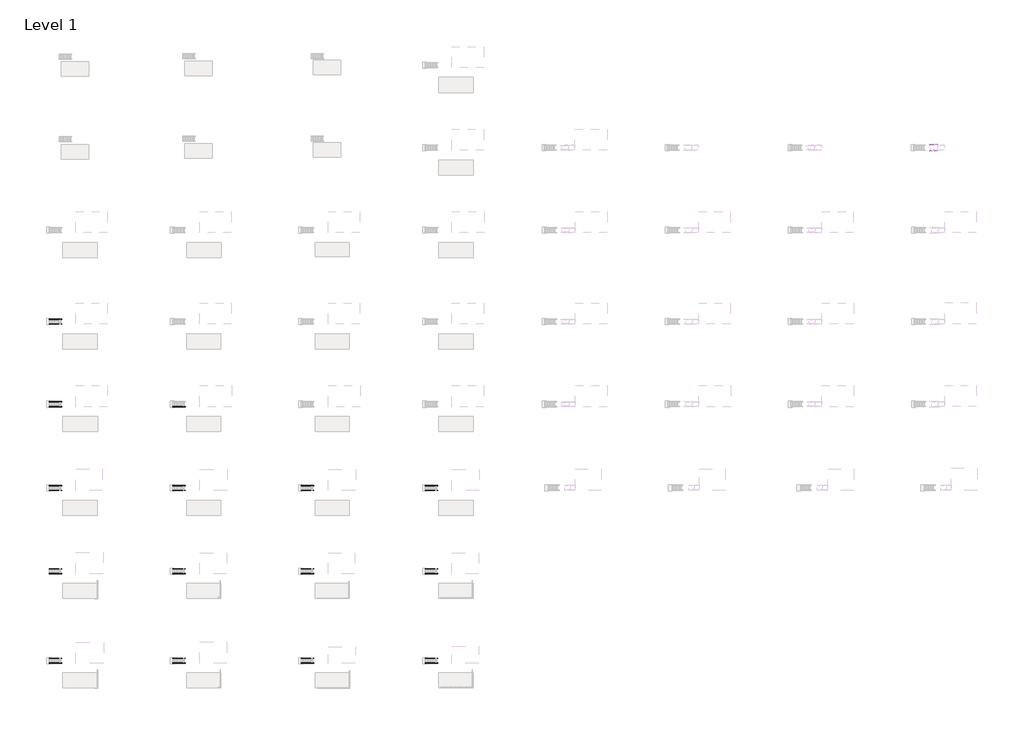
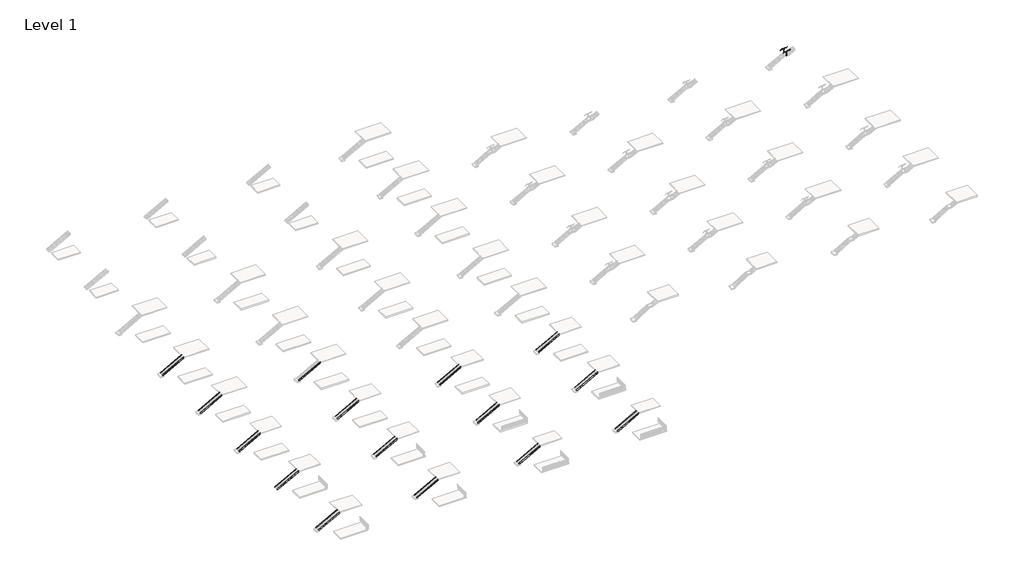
# One storey, part 34 of 36: 29 members, 2 railings.
"""IFC4 building model written with IfcOpenShell, lengths in millimetres."""

from ifc_helpers import new_model, si_unit, point, frame, frame_2d, origin, place, context, project, spatial, polyline, circle_curve, ellipse_curve, trimmed, segment, composite_curve, outline, extrude, element, save
from ifc_brep_helpers import plane_surface, cylinder_surface, revolved_surface, advanced_brep

model = new_model("IFC4")

# Units and contexts
model_context = context("Model", 3, world=origin())
ifc_project = project(units=[si_unit("LENGTHUNIT", "METRE", prefix="MILLI")], contexts=[model_context])

# Site, building, storey
site = spatial("IfcSite", under=ifc_project)
building = spatial("IfcBuilding", under=site)
storey = spatial("IfcBuildingStorey", under=building, Name="Level 1", Elevation=0.0)

# Members
placement = place(None, origin())
element("IfcMember", 1, ObjectType="Stringer - 2\" Width", at=placement, inside=storey, context=model_context, shape_type="SweptSolid", body=[
    extrude(outline(polyline([(177.1989729, -14498.1164794), (0.0, -14498.1164794), (0.0, -14212.9808448), (2753.9260175, -9164.1164794), (3086.6535184, -9164.1164794), (177.1989729, -14498.1164794)])), frame((0.0, -69110.0426165, 0.0), z_axis=(0.0, 1.0, 0.0), x_axis=(0.0, 0.0, 1.0)), (0.0, 0.0, 1.0), 50.8),
])
element("IfcMember", 2, ObjectType="Stringer - 2\" Width", at=placement, inside=storey, context=model_context, shape_type="SweptSolid", body=[
    extrude(outline(polyline([(177.1989729, -14498.1164794), (0.0, -14498.1164794), (0.0, -14212.9808448), (2753.9260175, -9164.1164794), (3086.6535184, -9164.1164794), (177.1989729, -14498.1164794)])), frame((0.0, -70075.2426165, 0.0), z_axis=(0.0, 1.0, 0.0), x_axis=(0.0, 0.0, 1.0)), (0.0, 0.0, 1.0), 50.8),
])
element("IfcMember", 3, ObjectType="Stringer - 2\" Width", at=placement, inside=storey, context=model_context, shape_type="SweptSolid", body=[
    extrude(outline(polyline([(177.1989729, -14498.1164794), (0.0, -14498.1164794), (0.0, -14212.9808448), (2753.9260175, -9164.1164794), (3086.6535184, -9164.1164794), (177.1989729, -14498.1164794)])), frame((0.0, -51279.2426165, 0.0), z_axis=(0.0, 1.0, 0.0), x_axis=(0.0, 0.0, 1.0)), (0.0, 0.0, 1.0), 50.8),
])
element("IfcMember", 4, ObjectType="Stringer - 2\" Width", at=placement, inside=storey, context=model_context, shape_type="SweptSolid", body=[
    extrude(outline(polyline([(177.1989729, -14498.1164794), (0.0, -14498.1164794), (0.0, -14212.9808448), (2753.9260175, -9164.1164794), (3086.6535184, -9164.1164794), (177.1989729, -14498.1164794)])), frame((0.0, -52244.4426165, 0.0), z_axis=(0.0, 1.0, 0.0), x_axis=(0.0, 0.0, 1.0)), (0.0, 0.0, 1.0), 50.8),
])
element("IfcMember", 5, ObjectType="Stringer - 2\" Width", at=placement, inside=storey, context=model_context, shape_type="SweptSolid", body=[
    extrude(outline(polyline([(177.1989729, -14498.1164794), (0.0, -14498.1164794), (0.0, -14212.9808448), (2753.9260175, -9164.1164794), (3086.6535184, -9164.1164794), (177.1989729, -14498.1164794)])), frame((0.0, -34679.081782, 0.0), z_axis=(0.0, 1.0, 0.0), x_axis=(0.0, 0.0, 1.0)), (0.0, 0.0, 1.0), 50.8),
])
element("IfcMember", 6, ObjectType="Stringer - 2\" Width", at=placement, inside=storey, context=model_context, shape_type="SweptSolid", body=[
    extrude(outline(polyline([(177.1989729, -14498.1164794), (0.0, -14498.1164794), (0.0, -14212.9808448), (2753.9260175, -9164.1164794), (3086.6535184, -9164.1164794), (177.1989729, -14498.1164794)])), frame((0.0, -35644.281782, 0.0), z_axis=(0.0, 1.0, 0.0), x_axis=(0.0, 0.0, 1.0)), (0.0, 0.0, 1.0), 50.8),
])
element("IfcMember", 7, ObjectType="Stringer - 2\" Width", at=placement, inside=storey, context=model_context, shape_type="SweptSolid", body=[
    extrude(outline(polyline([(177.1989729, -14498.1164794), (0.0, -14498.1164794), (0.0, -14212.9808448), (2753.9260175, -9164.1164794), (3086.6535184, -9164.1164794), (177.1989729, -14498.1164794)])), frame((0.0, -17954.2990002, 0.0), z_axis=(0.0, 1.0, 0.0), x_axis=(0.0, 0.0, 1.0)), (0.0, 0.0, 1.0), 50.8),
])
element("IfcMember", 8, ObjectType="Stringer - 2\" Width", at=placement, inside=storey, context=model_context, shape_type="SweptSolid", body=[
    extrude(outline(polyline([(177.1989729, -14498.1164794), (0.0, -14498.1164794), (0.0, -14212.9808448), (2753.9260175, -9164.1164794), (3086.6535184, -9164.1164794), (177.1989729, -14498.1164794)])), frame((0.0, -18919.4990002, 0.0), z_axis=(0.0, 1.0, 0.0), x_axis=(0.0, 0.0, 1.0)), (0.0, 0.0, 1.0), 50.8),
])
element("IfcMember", 9, ObjectType="Stringer - 2\" Width", at=placement, inside=storey, context=model_context, shape_type="SweptSolid", body=[
    extrude(outline(polyline([(177.1989729, -14498.1164794), (0.0, -14498.1164794), (0.0, -14212.9808448), (2753.9260175, -9164.1164794), (3086.6535184, -9164.1164794), (177.1989729, -14498.1164794)])), frame((0.0, -1486.3855758, 0.0), z_axis=(0.0, 1.0, 0.0), x_axis=(0.0, 0.0, 1.0)), (0.0, 0.0, 1.0), 50.8),
])
element("IfcMember", 10, ObjectType="Stringer - 2\" Width", at=placement, inside=storey, context=model_context, shape_type="SweptSolid", body=[
    extrude(outline(polyline([(177.1989729, -14498.1164794), (0.0, -14498.1164794), (0.0, -14212.9808448), (2753.9260175, -9164.1164794), (3086.6535184, -9164.1164794), (177.1989729, -14498.1164794)])), frame((0.0, -2451.5855758, 0.0), z_axis=(0.0, 1.0, 0.0), x_axis=(0.0, 0.0, 1.0)), (0.0, 0.0, 1.0), 50.8),
])
element("IfcMember", 11, ObjectType="Stringer - 2\" Width", at=placement, inside=storey, context=model_context, shape_type="SweptSolid", body=[
    extrude(outline(polyline([(177.1989729, 10178.8572927), (0.0, 10178.8572927), (0.0, 10463.9929272), (2753.9260175, 15512.8572927), (3086.6535184, 15512.8572927), (177.1989729, 10178.8572927)])), frame((0.0, -69110.0426165, 0.0), z_axis=(0.0, 1.0, 0.0), x_axis=(0.0, 0.0, 1.0)), (0.0, 0.0, 1.0), 50.8),
])
element("IfcMember", 12, ObjectType="Stringer - 2\" Width", at=placement, inside=storey, context=model_context, shape_type="SweptSolid", body=[
    extrude(outline(polyline([(177.1989729, 10178.8572927), (0.0, 10178.8572927), (0.0, 10463.9929272), (2753.9260175, 15512.8572927), (3086.6535184, 15512.8572927), (177.1989729, 10178.8572927)])), frame((0.0, -70075.2426165, 0.0), z_axis=(0.0, 1.0, 0.0), x_axis=(0.0, 0.0, 1.0)), (0.0, 0.0, 1.0), 50.8),
])
element("IfcMember", 13, ObjectType="Stringer - 2\" Width", at=placement, inside=storey, context=model_context, shape_type="SweptSolid", body=[
    extrude(outline(polyline([(177.1989729, 10178.8572927), (0.0, 10178.8572927), (0.0, 10463.9929272), (2753.9260175, 15512.8572927), (3086.6535184, 15512.8572927), (177.1989729, 10178.8572927)])), frame((0.0, -51279.2426165, 0.0), z_axis=(0.0, 1.0, 0.0), x_axis=(0.0, 0.0, 1.0)), (0.0, 0.0, 1.0), 50.8),
])
element("IfcMember", 14, ObjectType="Stringer - 2\" Width", at=placement, inside=storey, context=model_context, shape_type="SweptSolid", body=[
    extrude(outline(polyline([(177.1989729, 10178.8572927), (0.0, 10178.8572927), (0.0, 10463.9929272), (2753.9260175, 15512.8572927), (3086.6535184, 15512.8572927), (177.1989729, 10178.8572927)])), frame((0.0, -52244.4426165, 0.0), z_axis=(0.0, 1.0, 0.0), x_axis=(0.0, 0.0, 1.0)), (0.0, 0.0, 1.0), 50.8),
])
element("IfcMember", 15, ObjectType="Stringer - 2\" Width", at=placement, inside=storey, context=model_context, shape_type="SweptSolid", body=[
    extrude(outline(polyline([(177.1989729, 10178.8572927), (0.0, 10178.8572927), (0.0, 10463.9929272), (2753.9260175, 15512.8572927), (3086.6535184, 15512.8572927), (177.1989729, 10178.8572927)])), frame((0.0, -34679.081782, 0.0), z_axis=(0.0, 1.0, 0.0), x_axis=(0.0, 0.0, 1.0)), (0.0, 0.0, 1.0), 50.8),
])
element("IfcMember", 16, ObjectType="Stringer - 2\" Width", at=placement, inside=storey, context=model_context, shape_type="SweptSolid", body=[
    extrude(outline(polyline([(177.1989729, 10178.8572927), (0.0, 10178.8572927), (0.0, 10463.9929272), (2753.9260175, 15512.8572927), (3086.6535184, 15512.8572927), (177.1989729, 10178.8572927)])), frame((0.0, -35644.281782, 0.0), z_axis=(0.0, 1.0, 0.0), x_axis=(0.0, 0.0, 1.0)), (0.0, 0.0, 1.0), 50.8),
])
element("IfcMember", 17, ObjectType="Stringer - 2\" Width", at=placement, inside=storey, context=model_context, shape_type="SweptSolid", body=[
    extrude(outline(polyline([(177.1989729, 10178.8572927), (0.0, 10178.8572927), (0.0, 10463.9929272), (2753.9260175, 15512.8572927), (3086.6535184, 15512.8572927), (177.1989729, 10178.8572927)])), frame((0.0, -18919.4990002, 0.0), z_axis=(0.0, 1.0, 0.0), x_axis=(0.0, 0.0, 1.0)), (0.0, 0.0, 1.0), 50.8),
])
element("IfcMember", 18, ObjectType="Stringer - 2\" Width", at=placement, inside=storey, context=model_context, shape_type="SweptSolid", body=[
    extrude(outline(polyline([(177.1989729, 35782.0572927), (0.0, 35782.0572927), (0.0, 36067.1929272), (2753.9260175, 41116.0572927), (3086.6535184, 41116.0572927), (177.1989729, 35782.0572927)])), frame((0.0, -69110.0426165, 0.0), z_axis=(0.0, 1.0, 0.0), x_axis=(0.0, 0.0, 1.0)), (0.0, 0.0, 1.0), 50.8),
])
element("IfcMember", 19, ObjectType="Stringer - 2\" Width", at=placement, inside=storey, context=model_context, shape_type="SweptSolid", body=[
    extrude(outline(polyline([(177.1989729, 35782.0572927), (0.0, 35782.0572927), (0.0, 36067.1929272), (2753.9260175, 41116.0572927), (3086.6535184, 41116.0572927), (177.1989729, 35782.0572927)])), frame((0.0, -70075.2426165, 0.0), z_axis=(0.0, 1.0, 0.0), x_axis=(0.0, 0.0, 1.0)), (0.0, 0.0, 1.0), 50.8),
])
element("IfcMember", 20, ObjectType="Stringer - 2\" Width", at=placement, inside=storey, context=model_context, shape_type="SweptSolid", body=[
    extrude(outline(polyline([(177.1989729, 35782.0572927), (0.0, 35782.0572927), (0.0, 36067.1929272), (2753.9260175, 41116.0572927), (3086.6535184, 41116.0572927), (177.1989729, 35782.0572927)])), frame((0.0, -51279.2426165, 0.0), z_axis=(0.0, 1.0, 0.0), x_axis=(0.0, 0.0, 1.0)), (0.0, 0.0, 1.0), 50.8),
])
element("IfcMember", 21, ObjectType="Stringer - 2\" Width", at=placement, inside=storey, context=model_context, shape_type="SweptSolid", body=[
    extrude(outline(polyline([(177.1989729, 35782.0572927), (0.0, 35782.0572927), (0.0, 36067.1929272), (2753.9260175, 41116.0572927), (3086.6535184, 41116.0572927), (177.1989729, 35782.0572927)])), frame((0.0, -52244.4426165, 0.0), z_axis=(0.0, 1.0, 0.0), x_axis=(0.0, 0.0, 1.0)), (0.0, 0.0, 1.0), 50.8),
])
element("IfcMember", 22, ObjectType="Stringer - 2\" Width", at=placement, inside=storey, context=model_context, shape_type="SweptSolid", body=[
    extrude(outline(polyline([(177.1989729, 35782.0572927), (0.0, 35782.0572927), (0.0, 36067.1929272), (2753.9260175, 41116.0572927), (3086.6535184, 41116.0572927), (177.1989729, 35782.0572927)])), frame((0.0, -34679.081782, 0.0), z_axis=(0.0, 1.0, 0.0), x_axis=(0.0, 0.0, 1.0)), (0.0, 0.0, 1.0), 50.8),
])
element("IfcMember", 23, ObjectType="Stringer - 2\" Width", at=placement, inside=storey, context=model_context, shape_type="SweptSolid", body=[
    extrude(outline(polyline([(177.1989729, 35782.0572927), (0.0, 35782.0572927), (0.0, 36067.1929272), (2753.9260175, 41116.0572927), (3086.6535184, 41116.0572927), (177.1989729, 35782.0572927)])), frame((0.0, -35644.281782, 0.0), z_axis=(0.0, 1.0, 0.0), x_axis=(0.0, 0.0, 1.0)), (0.0, 0.0, 1.0), 50.8),
])
element("IfcMember", 24, ObjectType="Stringer - 2\" Width", at=placement, inside=storey, context=model_context, shape_type="SweptSolid", body=[
    extrude(outline(polyline([(177.1989729, 60459.0310647), (0.0, 60459.0310647), (0.0, 60744.1666993), (2753.9260175, 65793.0310647), (3086.6535184, 65793.0310647), (177.1989729, 60459.0310647)])), frame((0.0, -69110.0426165, 0.0), z_axis=(0.0, 1.0, 0.0), x_axis=(0.0, 0.0, 1.0)), (0.0, 0.0, 1.0), 50.8),
])
element("IfcMember", 25, ObjectType="Stringer - 2\" Width", at=placement, inside=storey, context=model_context, shape_type="SweptSolid", body=[
    extrude(outline(polyline([(177.1989729, 60459.0310647), (0.0, 60459.0310647), (0.0, 60744.1666993), (2753.9260175, 65793.0310647), (3086.6535184, 65793.0310647), (177.1989729, 60459.0310647)])), frame((0.0, -70075.2426165, 0.0), z_axis=(0.0, 1.0, 0.0), x_axis=(0.0, 0.0, 1.0)), (0.0, 0.0, 1.0), 50.8),
])
element("IfcMember", 26, ObjectType="Stringer - 2\" Width", at=placement, inside=storey, context=model_context, shape_type="SweptSolid", body=[
    extrude(outline(polyline([(177.1989729, 60459.0310647), (0.0, 60459.0310647), (0.0, 60744.1666993), (2753.9260175, 65793.0310647), (3086.6535184, 65793.0310647), (177.1989729, 60459.0310647)])), frame((0.0, -51279.2426165, 0.0), z_axis=(0.0, 1.0, 0.0), x_axis=(0.0, 0.0, 1.0)), (0.0, 0.0, 1.0), 50.8),
])
element("IfcMember", 27, ObjectType="Stringer - 2\" Width", at=placement, inside=storey, context=model_context, shape_type="SweptSolid", body=[
    extrude(outline(polyline([(177.1989729, 60459.0310647), (0.0, 60459.0310647), (0.0, 60744.1666993), (2753.9260175, 65793.0310647), (3086.6535184, 65793.0310647), (177.1989729, 60459.0310647)])), frame((0.0, -52244.4426165, 0.0), z_axis=(0.0, 1.0, 0.0), x_axis=(0.0, 0.0, 1.0)), (0.0, 0.0, 1.0), 50.8),
])
element("IfcMember", 28, ObjectType="Stringer - 2\" Width", at=placement, inside=storey, context=model_context, shape_type="SweptSolid", body=[
    extrude(outline(polyline([(177.1989729, 60459.0310647), (0.0, 60459.0310647), (0.0, 60744.1666993), (2753.9260175, 65793.0310647), (3086.6535184, 65793.0310647), (177.1989729, 60459.0310647)])), frame((0.0, -34679.081782, 0.0), z_axis=(0.0, 1.0, 0.0), x_axis=(0.0, 0.0, 1.0)), (0.0, 0.0, 1.0), 50.8),
])
element("IfcMember", 29, ObjectType="Stringer - 2\" Width", at=placement, inside=storey, context=model_context, shape_type="SweptSolid", body=[
    extrude(outline(polyline([(177.1989729, 60459.0310647), (0.0, 60459.0310647), (0.0, 60744.1666993), (2753.9260175, 65793.0310647), (3086.6535184, 65793.0310647), (177.1989729, 60459.0310647)])), frame((0.0, -35644.281782, 0.0), z_axis=(0.0, 1.0, 0.0), x_axis=(0.0, 0.0, 1.0)), (0.0, 0.0, 1.0), 50.8),
])

# Railings
element("IfcRailing", 30, ObjectType="VIVA-BLADE-CableNet Infill-Panel-Fascia Mounted-Stairs-Landing", at=placement, inside=storey, context=model_context, shape_type="SolidModel", body=[
    advanced_brep(
    [(161021.126153, 32148.9539886, 3009.6740933), (161021.126153, 32199.7539886, 3009.6740933), (161408.8714897, 32148.9539886, 3231.2428571), (161408.8714897, 32199.7539886, 3231.2428571), (162475.6714897, 32148.9539886, 3231.2428571), (162475.6714897, 32199.7539886, 3231.2428571), (162726.101153, 32148.9539886, 3374.3455219), (162726.101153, 32199.7539886, 3374.3455219)],
    [
        (0, 1, ellipse_curve(frame((161021.126153, 32174.3539886, 3009.6740933), z_axis=(-1.0, 0.0, 0.0), x_axis=(0.0, 0.0, -1.0)), 29.2544781, 25.4)),
        (1, 0, ellipse_curve(frame((161021.126153, 32174.3539886, 3009.6740933), z_axis=(-1.0, 0.0, 0.0), x_axis=(0.0, 0.0, -1.0)), 29.2544781, 25.4)),
        (0, 2),
        (2, 3, ellipse_curve(frame((161408.8714897, 32174.3539886, 3231.2428571), z_axis=(-0.9664996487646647, 0.0, -0.25666793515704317), x_axis=(0.2566679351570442, 0.0, -0.9664996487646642)), 26.2804027, 25.4)),
        (3, 1),
        (3, 2, ellipse_curve(frame((161408.8714897, 32174.3539886, 3231.2428571), z_axis=(-0.9664996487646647, 0.0, -0.25666793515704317), x_axis=(0.2566679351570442, 0.0, -0.9664996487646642)), 26.2804027, 25.4)),
        (2, 4),
        (4, 5, ellipse_curve(frame((162475.6714897, 32174.3539886, 3231.2428571), z_axis=(-0.966499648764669, 0.0, -0.25666793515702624), x_axis=(-0.25666793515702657, 0.0, 0.966499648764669)), 26.2804027, 25.4)),
        (5, 3),
        (5, 4, ellipse_curve(frame((162475.6714897, 32174.3539886, 3231.2428571), z_axis=(-0.966499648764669, 0.0, -0.25666793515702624), x_axis=(-0.25666793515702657, 0.0, 0.966499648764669)), 26.2804027, 25.4)),
        (6, 7, ellipse_curve(frame((162726.101153, 32174.3539886, 3374.3455219), z_axis=(1.0, 0.0, 0.0), x_axis=(0.0, 0.0, -1.0)), 29.2544781, 25.4)),
        (7, 6, ellipse_curve(frame((162726.101153, 32174.3539886, 3374.3455219), z_axis=(1.0, 0.0, 0.0), x_axis=(0.0, 0.0, -1.0)), 29.2544781, 25.4)),
        (4, 6),
        (7, 5),
    ],
    [
        plane_surface(frame((161021.126153, 32174.3539886, 3038.9285714), z_axis=(-1.0, 0.0, 0.0), x_axis=(0.0, 1.0, 0.0))),
        cylinder_surface(frame((161033.728082, 32174.3539886, 3016.8751956), z_axis=(-0.8682431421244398, 0.0, -0.49613893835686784), x_axis=(0.0, 1.0, 0.0)), 25.4),
        cylinder_surface(frame((161402.126153, 32174.3539886, 3231.2428571), z_axis=(-1.0, 0.0, 0.0), x_axis=(0.0, 1.0, 0.0)), 25.4),
        plane_surface(frame((162726.101153, 32174.3539886, 3403.6), z_axis=(1.0, 0.0, 0.0), x_axis=(0.0, 1.0, 0.0))),
        cylinder_surface(frame((162481.528082, 32174.3539886, 3234.5894813), z_axis=(-0.8682431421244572, 0.0, -0.49613893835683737), x_axis=(0.0, 1.0, 0.0)), 25.4),
    ],
    [
        (0, [[1, 2]]),
        (1, [[-1, 3, 4, 5]]),
        (1, [[-2, -5, 6, -3]]),
        (2, [[-4, 7, 8, 9]]),
        (2, [[-6, -9, 10, -7]]),
        (3, [[11, 12]]),
        (4, [[-8, 13, -12, 14]]),
        (4, [[-10, -14, -11, -13]]),
    ],
),
    extrude(outline(composite_curve([segment(trimmed(circle_curve(frame_2d((0.0, 7.0)), 7.0), [point((0.0, 14.0))], [point((0.0, 0.0))], False, "CARTESIAN"), True, "CONTINUOUS"), segment(trimmed(circle_curve(frame_2d((0.0, 7.0)), 7.0), [point((0.0, 0.0))], [point((0.0, 14.0))], False, "CARTESIAN"), True, "CONTINUOUS")], self_intersect=False)), frame((161873.5294031, 32260.037611, 2975.6229503), z_axis=(0.0012555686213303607, 0.0, 0.999999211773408), x_axis=(0.999999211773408, 0.0, -0.0012555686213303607)), (0.0, 0.0, 1.0), 75.97),
    extrude(outline(composite_curve([segment(trimmed(circle_curve(frame_2d((32268.285543, 3073.569086)), 19.05), [point((32254.7559548, 3060.1581672))], [point((32281.8151313, 3060.1581672))], True, "CARTESIAN"), True, "CONTINUOUS"), segment(polyline([(32281.8151313, 3060.1581672), (32282.8415209, 3059.1407802)]), True, "CONTINUOUS"), segment(trimmed(circle_curve(frame_2d((32281.785543, 3058.0754583)), 1.5), [point((32282.8415209, 3059.1407802))], [point((32282.7709445, 3056.9445366))], False, "CARTESIAN"), True, "CONTINUOUS"), segment(trimmed(circle_curve(frame_2d((32268.285543, 3073.569086)), 22.05), [point((32282.7709445, 3056.9445366))], [point((32253.8001416, 3056.9445366))], False, "CARTESIAN"), True, "CONTINUOUS"), segment(trimmed(circle_curve(frame_2d((32254.785543, 3058.0754583)), 1.5), [point((32253.8001416, 3056.9445366))], [point((32253.7295652, 3059.1407802))], False, "CARTESIAN"), True, "CONTINUOUS"), segment(polyline([(32253.7295652, 3059.1407802), (32254.7559548, 3060.1581672)]), True, "CONTINUOUS")], self_intersect=False)), frame((161837.1780183, 0.0, 0.0), z_axis=(1.0, 0.0, 0.0), x_axis=(0.0, 1.0, 0.0)), (0.0, 0.0, 1.0), 74.5229187),
    extrude(outline(composite_curve([segment(trimmed(circle_curve(frame_2d((3002.4995463, 161873.5893066)), 12.5), [point((3002.4995463, 161861.0893066))], [point((3002.4995463, 161886.0893066))], False, "CARTESIAN"), True, "CONTINUOUS"), segment(trimmed(circle_curve(frame_2d((3002.4995463, 161873.5893066)), 12.5), [point((3002.4995463, 161886.0893066))], [point((3002.4995463, 161861.0893066))], False, "CARTESIAN"), True, "CONTINUOUS")], self_intersect=False)), frame((0.0, 32199.7537852, 0.0), z_axis=(0.0, 1.0, 0.0), x_axis=(0.0, 0.0, 1.0)), (0.0, 0.0, 1.0), 82.061346),
    extrude(outline(polyline([(161900.6884887, 32206.1037852), (161900.6884887, 32199.7537852), (161846.5610887, 32199.7537852), (161846.5610887, 32206.1037852), (161900.6884887, 32206.1037852)])), frame((0.0, 0.0, 2975.5558249), z_axis=(0.0, 0.0, 1.0), x_axis=(1.0, 0.0, 0.0)), (0.0, 0.0, 1.0), 54.1734375),
    advanced_brep(
    [(161918.851053, 32187.1141122, 3209.2396226), (161918.851053, 32162.2420477, 3209.0963856), (161918.851053, 32159.4331174, 3204.2696317), (161918.851053, 32190.9500096, 3204.8503901), (161828.376253, 32187.1141122, 3209.2396226), (161828.376253, 32190.9500096, 3204.8503901), (161828.376253, 32159.319324, 3204.3322535), (161828.376253, 32162.1550756, 3209.1447018)],
    [
        (0, 1, circle_curve(frame((161918.851053, 32174.5503093, 3231.3544469), z_axis=(-1.0, 0.0, 0.0), x_axis=(0.0, 1.0, 0.0)), 25.4345159)),
        (1, 2, circle_curve(frame((161918.851053, 32160.9104224, 3206.642217), z_axis=(1.0, 0.0, 0.0), x_axis=(0.0, 1.0, 0.0)), 2.7949225)),
        (2, 3, circle_curve(frame((161918.851053, 32174.6837724, 3232.1170736), z_axis=(1.0, 0.0, 0.0), x_axis=(0.0, 1.0, 0.0)), 31.75)),
        (3, 0, circle_curve(frame((161918.851053, 32188.6616699, 3206.7213092), z_axis=(1.0, 0.0, 0.0), x_axis=(0.0, 1.0, 0.0)), 2.9558141)),
        (4, 5, circle_curve(frame((161828.376253, 32188.6616699, 3206.7213092), z_axis=(-1.0, 0.0, 0.0), x_axis=(0.0, 1.0, 0.0)), 2.9558141)),
        (5, 6, circle_curve(frame((161828.376253, 32174.6837724, 3232.1170736), z_axis=(-1.0, 0.0, 0.0), x_axis=(0.0, 1.0, 0.0)), 31.75)),
        (6, 7, circle_curve(frame((161828.376253, 32160.9104224, 3206.642217), z_axis=(-1.0, 0.0, 0.0), x_axis=(0.0, 1.0, 0.0)), 2.7949225)),
        (7, 4, circle_curve(frame((161828.376253, 32174.5503093, 3231.3544469), z_axis=(1.0, 0.0, 0.0), x_axis=(0.0, 1.0, 0.0)), 25.4345159)),
        (0, 4),
        (7, 1),
        (6, 2),
        (5, 3),
    ],
    [
        plane_surface(frame((161918.851053, 32199.9848252, 3231.3544469), z_axis=(1.0, 0.0, 0.0), x_axis=(0.0, 0.0, -1.0))),
        plane_surface(frame((161828.376253, 32199.9848252, 3231.3544469), z_axis=(-1.0, 0.0, 0.0), x_axis=(0.0, 0.0, 1.0))),
        revolved_surface(polyline([(161828.376253, 32199.9848252, 3231.3544469), (161918.851053, 32199.9848252, 3231.3544469)]), (161828.376253, 32174.5503093, 3231.3544469), (-1.0, 0.0, 0.0)),
        cylinder_surface(frame((161828.376253, 32160.9104224, 3206.642217), z_axis=(1.0, 0.0, 0.0), x_axis=(0.0, 1.0, 0.0)), 2.7949225),
        cylinder_surface(frame((161828.376253, 32174.6837724, 3232.1170736), z_axis=(1.0, 0.0, 0.0), x_axis=(0.0, 1.0, 0.0)), 31.75),
        cylinder_surface(frame((161828.376253, 32188.6616699, 3206.7213092), z_axis=(1.0, 0.0, 0.0), x_axis=(0.0, 1.0, 0.0)), 2.9558141),
    ],
    [
        (0, [[1, 2, 3, 4]]),
        (1, [[5, 6, 7, 8]]),
        (2, [[-1, 9, -8, 10]]),
        (3, [[-2, -10, -7, 11]]),
        (4, [[-3, -11, -6, 12]]),
        (5, [[-4, -12, -5, -9]]),
    ],
),
    extrude(outline(polyline([(161937.1017161, 32250.5541943), (161937.1017161, 32241.0291943), (161810.1017161, 32241.0291943), (161810.1017161, 32250.5541943), (161937.1017161, 32250.5541943)])), frame((0.0, 0.0, 2024.7428571), z_axis=(0.0, 0.0, 1.0), x_axis=(1.0, 0.0, 0.0)), (0.0, 0.0, 1.0), 127.0),
    advanced_brep(
    [(161886.313653, 32176.8939886, 3191.5553571), (161860.913653, 32176.8939886, 3191.5553571), (161846.5457381, 32176.8939886, 3205.923272), (161900.6815678, 32176.8939886, 3205.923272), (161886.313653, 32171.8139886, 3191.5553571), (161900.6815678, 32171.8139886, 3205.923272), (161846.5457381, 32171.8139886, 3205.923272), (161860.913653, 32171.8139886, 3191.5553571)],
    [
        (0, 1),
        (1, 2, circle_curve(frame((161846.5457381, 32176.8939886, 3191.5553571), z_axis=(0.0, -1.0, 0.0), x_axis=(-1.0, 0.0, 0.0)), 14.3679149)),
        (2, 3),
        (3, 0, circle_curve(frame((161900.6815678, 32176.8939886, 3191.5553571), z_axis=(0.0, -1.0, 0.0), x_axis=(-1.0, 0.0, 0.0)), 14.3679149)),
        (4, 5, circle_curve(frame((161900.6815678, 32171.8139886, 3191.5553571), z_axis=(0.0, 1.0, 0.0), x_axis=(-1.0, 0.0, 0.0)), 14.3679149)),
        (5, 6),
        (6, 7, circle_curve(frame((161846.5457381, 32171.8139886, 3191.5553571), z_axis=(0.0, 1.0, 0.0), x_axis=(-1.0, 0.0, 0.0)), 14.3679149)),
        (7, 4),
        (0, 4),
        (7, 1),
        (6, 2),
        (5, 3),
    ],
    [
        plane_surface(frame((161860.913653, 32176.8939886, 3191.5553571), z_axis=(0.0, 1.0, 0.0), x_axis=(-1.0, 0.0, 0.0))),
        plane_surface(frame((161860.913653, 32171.8139886, 3191.5553571), z_axis=(0.0, -1.0, 0.0), x_axis=(1.0, 0.0, 0.0))),
        plane_surface(frame((161886.313653, 32176.8939886, 3191.5553571), z_axis=(0.0, 0.0, -1.0), x_axis=(0.0, -1.0, 0.0))),
        revolved_surface(polyline([(161832.17782319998, 32171.8139886, 3191.5553571), (161832.17782319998, 32176.8939886, 3191.5553571)]), (161846.5457381, 32171.8139886, 3191.5553571), (0.0, -1.0, 0.0)),
        plane_surface(frame((161846.5457381, 32176.8939886, 3205.923272), z_axis=(0.0, 0.0, 1.0), x_axis=(0.0, -1.0, 0.0))),
        revolved_surface(polyline([(161886.3136529, 32171.8139886, 3191.5553571), (161886.3136529, 32176.8939886, 3191.5553571)]), (161900.6815678, 32171.8139886, 3191.5553571), (0.0, -1.0, 0.0)),
    ],
    [
        (0, [[1, 2, 3, 4]]),
        (1, [[5, 6, 7, 8]]),
        (2, [[-1, 9, -8, 10]]),
        (3, [[-2, -10, -7, 11]]),
        (4, [[-3, -11, -6, 12]]),
        (5, [[-4, -12, -5, -9]]),
    ],
),
    extrude(outline(polyline([(161881.5426542, 32231.5041943), (161881.5426542, 32199.7533864), (161865.6066638, 32199.7533864), (161865.6066638, 32231.5041943), (161881.5426542, 32231.5041943)])), frame((0.0, 0.0, 2056.4928571), z_axis=(0.0, 0.0, 1.0), x_axis=(1.0, 0.0, 0.0)), (0.0, 0.0, 1.0), 63.5),
    extrude(outline(polyline([(161846.5388173, 32199.7537852), (161854.563653, 32199.7537852), (161854.563653, 32148.9514606), (161846.5388173, 32148.9514606), (161846.5388173, 32199.7537852)])), frame((0.0, 0.0, 2269.3940557), z_axis=(0.0, 0.0, 1.0), x_axis=(1.0, 0.0, 0.0)), (0.0, 0.0, 1.0), 904.6988015),
    extrude(outline(polyline([(2024.7428571, 161810.1017161), (2024.7428571, 161937.1017161), (2151.7428571, 161937.1017161), (2151.7428571, 161810.1017161), (2024.7428571, 161810.1017161)]), holes=[composite_curve([segment(trimmed(circle_curve(frame_2d((2132.6928571, 161829.1517161)), 4.7068371), [point((2132.6928571, 161833.8585532))], [point((2132.6928571, 161824.444879))], True, "CARTESIAN"), True, "CONTINUOUS"), segment(trimmed(circle_curve(frame_2d((2132.6928571, 161829.1517161)), 4.7068371), [point((2132.6928571, 161824.444879))], [point((2132.6928571, 161833.8585532))], True, "CARTESIAN"), True, "CONTINUOUS")], self_intersect=False), composite_curve([segment(trimmed(circle_curve(frame_2d((2132.6928571, 161918.0517161)), 4.7068371), [point((2132.6928571, 161922.7585532))], [point((2132.6928571, 161913.344879))], True, "CARTESIAN"), True, "CONTINUOUS"), segment(trimmed(circle_curve(frame_2d((2132.6928571, 161918.0517161)), 4.7068371), [point((2132.6928571, 161913.344879))], [point((2132.6928571, 161922.7585532))], True, "CARTESIAN"), True, "CONTINUOUS")], self_intersect=False), composite_curve([segment(trimmed(circle_curve(frame_2d((2043.7928571, 161918.0517161)), 4.7068371), [point((2043.7928571, 161922.7585532))], [point((2043.7928571, 161913.344879))], True, "CARTESIAN"), True, "CONTINUOUS"), segment(trimmed(circle_curve(frame_2d((2043.7928571, 161918.0517161)), 4.7068371), [point((2043.7928571, 161913.344879))], [point((2043.7928571, 161922.7585532))], True, "CARTESIAN"), True, "CONTINUOUS")], self_intersect=False), composite_curve([segment(trimmed(circle_curve(frame_2d((2043.7928571, 161829.1517161)), 4.7068371), [point((2043.7928571, 161833.8585532))], [point((2043.7928571, 161824.444879))], True, "CARTESIAN"), True, "CONTINUOUS"), segment(trimmed(circle_curve(frame_2d((2043.7928571, 161829.1517161)), 4.7068371), [point((2043.7928571, 161824.444879))], [point((2043.7928571, 161833.8585532))], True, "CARTESIAN"), True, "CONTINUOUS")], self_intersect=False)]), frame((0.0, 32231.5041943, 0.0), z_axis=(0.0, 1.0, 0.0), x_axis=(0.0, 0.0, 1.0)), (0.0, 0.0, 1.0), 9.525),
    extrude(outline(polyline([(161881.5426542, 32199.7533864), (161881.5426542, 32148.9533941), (161865.6066638, 32148.9533941), (161865.6066638, 32199.7533864), (161881.5426542, 32199.7533864)])), frame((0.0, 0.0, 2056.4928571), z_axis=(0.0, 0.0, 1.0), x_axis=(1.0, 0.0, 0.0)), (0.0, 0.0, 1.0), 393.7),
    extrude(outline(composite_curve([segment(trimmed(circle_curve(frame_2d((32161.6515116, 3163.1845501)), 8.89), [point((32152.7615116, 3163.1845501))], [point((32170.5415116, 3163.1845501))], False, "CARTESIAN"), True, "CONTINUOUS"), segment(trimmed(circle_curve(frame_2d((32161.6515116, 3163.1845501)), 8.89), [point((32170.5415116, 3163.1845501))], [point((32152.7615116, 3163.1845501))], False, "CARTESIAN"), True, "CONTINUOUS")], self_intersect=False)), frame((161841.863653, 0.0, 0.0), z_axis=(1.0, 0.0, 0.0), x_axis=(0.0, 1.0, 0.0)), (0.0, 0.0, 1.0), 63.4880631),
    extrude(outline(composite_curve([segment(trimmed(circle_curve(frame_2d((32187.0514096, 3163.1845501)), 8.89), [point((32178.1614096, 3163.1845501))], [point((32195.9414096, 3163.1845501))], False, "CARTESIAN"), True, "CONTINUOUS"), segment(trimmed(circle_curve(frame_2d((32187.0514096, 3163.1845501)), 8.89), [point((32195.9414096, 3163.1845501))], [point((32178.1614096, 3163.1845501))], False, "CARTESIAN"), True, "CONTINUOUS")], self_intersect=False)), frame((161841.863653, 0.0, 0.0), z_axis=(1.0, 0.0, 0.0), x_axis=(0.0, 1.0, 0.0)), (0.0, 0.0, 1.0), 63.4880631),
    extrude(outline(polyline([(3151.8551571, 161854.563653), (3151.8551571, 161892.663653), (3185.2053571, 161892.663653), (3191.5553571, 161886.313653), (3191.5553571, 161860.913653), (3185.2053571, 161854.563653), (3151.8551571, 161854.563653)])), frame((0.0, 32148.9514606, 0.0), z_axis=(0.0, 1.0, 0.0), x_axis=(0.0, 0.0, 1.0)), (0.0, 0.0, 1.0), 50.8025279),
    extrude(outline(composite_curve([segment(trimmed(circle_curve(frame_2d((32174.3541943, 2416.8976493)), 19.05), [point((32155.3041943, 2416.8976493))], [point((32193.4041943, 2416.8976493))], False, "CARTESIAN"), True, "CONTINUOUS"), segment(trimmed(circle_curve(frame_2d((32174.3541943, 2416.8976493)), 19.05), [point((32193.4041943, 2416.8976493))], [point((32155.3041943, 2416.8976493))], False, "CARTESIAN"), True, "CONTINUOUS")], self_intersect=False)), frame((161837.164653, 0.0, 0.0), z_axis=(1.0, 0.0, 0.0), x_axis=(0.0, 1.0, 0.0)), (0.0, 0.0, 1.0), 72.8981531),
    extrude(outline(composite_curve([segment(trimmed(circle_curve(frame_2d((32174.3541943, 2327.9976493)), 19.05), [point((32155.3041943, 2327.9976493))], [point((32193.4041943, 2327.9976493))], False, "CARTESIAN"), True, "CONTINUOUS"), segment(trimmed(circle_curve(frame_2d((32174.3541943, 2327.9976493)), 19.05), [point((32193.4041943, 2327.9976493))], [point((32155.3041943, 2327.9976493))], False, "CARTESIAN"), True, "CONTINUOUS")], self_intersect=False)), frame((161837.164653, 0.0, 0.0), z_axis=(1.0, 0.0, 0.0), x_axis=(0.0, 1.0, 0.0)), (0.0, 0.0, 1.0), 72.8981531),
    extrude(outline(polyline([(161892.6636149, 32199.7537852), (161900.6646149, 32199.7537852), (161900.6646149, 32148.9514606), (161892.6636149, 32148.9514606), (161892.6636149, 32199.7537852)])), frame((0.0, 0.0, 2269.3940557), z_axis=(0.0, 0.0, 1.0), x_axis=(1.0, 0.0, 0.0)), (0.0, 0.0, 1.0), 904.6988015),
])
element("IfcRailing", 31, ObjectType="VIVA-BLADE-CableNet Infill-Panel-Fascia Mounted-Stairs-Landing", at=placement, inside=storey, context=model_context, shape_type="SolidModel", body=[
    advanced_brep(
    [(161021.126153, 33342.7539886, 3009.6740933), (161021.126153, 33393.5539886, 3009.6740933), (161408.8714897, 33342.7539886, 3231.2428571), (161408.8714897, 33393.5539886, 3231.2428571), (162475.6714897, 33342.7539886, 3231.2428571), (162475.6714897, 33393.5539886, 3231.2428571), (162726.101153, 33342.7539886, 3374.3455219), (162726.101153, 33393.5539886, 3374.3455219)],
    [
        (0, 1, ellipse_curve(frame((161021.126153, 33368.1539886, 3009.6740933), z_axis=(-1.0, 0.0, 0.0), x_axis=(0.0, 0.0, -1.0)), 29.2544781, 25.4)),
        (1, 0, ellipse_curve(frame((161021.126153, 33368.1539886, 3009.6740933), z_axis=(-1.0, 0.0, 0.0), x_axis=(0.0, 0.0, -1.0)), 29.2544781, 25.4)),
        (0, 2),
        (2, 3, ellipse_curve(frame((161408.8714897, 33368.1539886, 3231.2428571), z_axis=(-0.9664996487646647, 0.0, -0.25666793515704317), x_axis=(0.2566679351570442, 0.0, -0.9664996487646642)), 26.2804027, 25.4)),
        (3, 1),
        (3, 2, ellipse_curve(frame((161408.8714897, 33368.1539886, 3231.2428571), z_axis=(-0.9664996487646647, 0.0, -0.25666793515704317), x_axis=(0.2566679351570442, 0.0, -0.9664996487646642)), 26.2804027, 25.4)),
        (2, 4),
        (4, 5, ellipse_curve(frame((162475.6714897, 33368.1539886, 3231.2428571), z_axis=(-0.966499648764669, 0.0, -0.25666793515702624), x_axis=(-0.25666793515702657, 0.0, 0.966499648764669)), 26.2804027, 25.4)),
        (5, 3),
        (5, 4, ellipse_curve(frame((162475.6714897, 33368.1539886, 3231.2428571), z_axis=(-0.966499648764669, 0.0, -0.25666793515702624), x_axis=(-0.25666793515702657, 0.0, 0.966499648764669)), 26.2804027, 25.4)),
        (6, 7, ellipse_curve(frame((162726.101153, 33368.1539886, 3374.3455219), z_axis=(1.0, 0.0, 0.0), x_axis=(0.0, 0.0, -1.0)), 29.2544781, 25.4)),
        (7, 6, ellipse_curve(frame((162726.101153, 33368.1539886, 3374.3455219), z_axis=(1.0, 0.0, 0.0), x_axis=(0.0, 0.0, -1.0)), 29.2544781, 25.4)),
        (4, 6),
        (7, 5),
    ],
    [
        plane_surface(frame((161021.126153, 33368.1539886, 3038.9285714), z_axis=(-1.0, 0.0, 0.0), x_axis=(0.0, 1.0, 0.0))),
        cylinder_surface(frame((161033.728082, 33368.1539886, 3016.8751956), z_axis=(-0.8682431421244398, 0.0, -0.49613893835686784), x_axis=(0.0, 1.0, 0.0)), 25.4),
        cylinder_surface(frame((161402.126153, 33368.1539886, 3231.2428571), z_axis=(-1.0, 0.0, 0.0), x_axis=(0.0, 1.0, 0.0)), 25.4),
        plane_surface(frame((162726.101153, 33368.1539886, 3403.6), z_axis=(1.0, 0.0, 0.0), x_axis=(0.0, 1.0, 0.0))),
        cylinder_surface(frame((162481.528082, 33368.1539886, 3234.5894813), z_axis=(-0.8682431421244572, 0.0, -0.49613893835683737), x_axis=(0.0, 1.0, 0.0)), 25.4),
    ],
    [
        (0, [[1, 2]]),
        (1, [[-1, 3, 4, 5]]),
        (1, [[-2, -5, 6, -3]]),
        (2, [[-4, 7, 8, 9]]),
        (2, [[-6, -9, 10, -7]]),
        (3, [[11, 12]]),
        (4, [[-8, 13, -12, 14]]),
        (4, [[-10, -14, -11, -13]]),
    ],
),
    extrude(outline(composite_curve([segment(trimmed(circle_curve(frame_2d((0.0, -7.0)), 7.0), [point((0.0, -14.0))], [point((0.0, 0.0))], False, "CARTESIAN"), True, "CONTINUOUS"), segment(trimmed(circle_curve(frame_2d((0.0, -7.0)), 7.0), [point((0.0, 0.0))], [point((0.0, -14.0))], False, "CARTESIAN"), True, "CONTINUOUS")], self_intersect=False)), frame((161873.5294031, 33282.4703661, 2975.6229503), z_axis=(0.0012555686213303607, 0.0, 0.999999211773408), x_axis=(0.999999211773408, 0.0, -0.0012555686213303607)), (0.0, 0.0, 1.0), 75.97),
    extrude(outline(composite_curve([segment(polyline([(33287.7520223, 3060.1581672), (33288.7784119, 3059.1407802)]), True, "CONTINUOUS"), segment(trimmed(circle_curve(frame_2d((33287.7224341, 3058.0754583)), 1.5), [point((33288.7784119, 3059.1407802))], [point((33288.7078355, 3056.9445366))], False, "CARTESIAN"), True, "CONTINUOUS"), segment(trimmed(circle_curve(frame_2d((33274.2224341, 3073.569086)), 22.05), [point((33288.7078355, 3056.9445366))], [point((33259.7370326, 3056.9445366))], False, "CARTESIAN"), True, "CONTINUOUS"), segment(trimmed(circle_curve(frame_2d((33260.7224341, 3058.0754583)), 1.5), [point((33259.7370326, 3056.9445366))], [point((33259.6664562, 3059.1407802))], False, "CARTESIAN"), True, "CONTINUOUS"), segment(polyline([(33259.6664562, 3059.1407802), (33260.6928459, 3060.1581672)]), True, "CONTINUOUS"), segment(trimmed(circle_curve(frame_2d((33274.2224341, 3073.569086)), 19.05), [point((33260.6928459, 3060.1581672))], [point((33287.7520223, 3060.1581672))], True, "CARTESIAN"), True, "CONTINUOUS")], self_intersect=False)), frame((161837.1780183, 0.0, 0.0), z_axis=(1.0, 0.0, 0.0), x_axis=(0.0, 1.0, 0.0)), (0.0, 0.0, 1.0), 74.5229187),
    extrude(outline(composite_curve([segment(trimmed(circle_curve(frame_2d((3002.4995463, 161873.5893066)), 12.5), [point((3002.4995463, 161861.0893066))], [point((3002.4995463, 161886.0893066))], False, "CARTESIAN"), True, "CONTINUOUS"), segment(trimmed(circle_curve(frame_2d((3002.4995463, 161873.5893066)), 12.5), [point((3002.4995463, 161886.0893066))], [point((3002.4995463, 161861.0893066))], False, "CARTESIAN"), True, "CONTINUOUS")], self_intersect=False)), frame((0.0, 33260.6928459, 0.0), z_axis=(0.0, 1.0, 0.0), x_axis=(0.0, 0.0, 1.0)), (0.0, 0.0, 1.0), 82.061346),
    extrude(outline(polyline([(161900.6884887, 33336.4041919), (161846.5610887, 33336.4041919), (161846.5610887, 33342.7541919), (161900.6884887, 33342.7541919), (161900.6884887, 33336.4041919)])), frame((0.0, 0.0, 2975.5558249), z_axis=(0.0, 0.0, 1.0), x_axis=(1.0, 0.0, 0.0)), (0.0, 0.0, 1.0), 54.1734375),
    advanced_brep(
    [(161918.851053, 33355.3938649, 3209.2396226), (161918.851053, 33351.5579675, 3204.8503901), (161918.851053, 33383.0748598, 3204.2696317), (161918.851053, 33380.2659295, 3209.0963856), (161828.376253, 33355.3938649, 3209.2396226), (161828.376253, 33380.3529016, 3209.1447018), (161828.376253, 33383.1886532, 3204.3322535), (161828.376253, 33351.5579675, 3204.8503901)],
    [
        (0, 1, circle_curve(frame((161918.851053, 33353.8463073, 3206.7213092), z_axis=(1.0, 0.0, 0.0), x_axis=(0.0, -1.0, 0.0)), 2.9558141)),
        (1, 2, circle_curve(frame((161918.851053, 33367.8242047, 3232.1170736), z_axis=(1.0, 0.0, 0.0), x_axis=(0.0, -1.0, 0.0)), 31.75)),
        (2, 3, circle_curve(frame((161918.851053, 33381.5975547, 3206.642217), z_axis=(1.0, 0.0, 0.0), x_axis=(0.0, -1.0, 0.0)), 2.7949225)),
        (3, 0, circle_curve(frame((161918.851053, 33367.9576678, 3231.3544469), z_axis=(-1.0, 0.0, 0.0), x_axis=(0.0, -1.0, 0.0)), 25.4345159)),
        (4, 5, circle_curve(frame((161828.376253, 33367.9576678, 3231.3544469), z_axis=(1.0, 0.0, 0.0), x_axis=(0.0, -1.0, 0.0)), 25.4345159)),
        (5, 6, circle_curve(frame((161828.376253, 33381.5975547, 3206.642217), z_axis=(-1.0, 0.0, 0.0), x_axis=(0.0, -1.0, 0.0)), 2.7949225)),
        (6, 7, circle_curve(frame((161828.376253, 33367.8242047, 3232.1170736), z_axis=(-1.0, 0.0, 0.0), x_axis=(0.0, -1.0, 0.0)), 31.75)),
        (7, 4, circle_curve(frame((161828.376253, 33353.8463073, 3206.7213092), z_axis=(-1.0, 0.0, 0.0), x_axis=(0.0, -1.0, 0.0)), 2.9558141)),
        (3, 5),
        (4, 0),
        (2, 6),
        (1, 7),
    ],
    [
        plane_surface(frame((161918.851053, 33342.523152, 3231.3544469), z_axis=(1.0, 0.0, 0.0), x_axis=(0.0, 0.0, -1.0))),
        plane_surface(frame((161828.376253, 33342.523152, 3231.3544469), z_axis=(-1.0, 0.0, 0.0), x_axis=(0.0, 0.0, 1.0))),
        revolved_surface(polyline([(161828.376253, 33342.5231519, 3231.3544469), (161918.851053, 33342.5231519, 3231.3544469)]), (161828.376253, 33367.9576678, 3231.3544469), (-1.0, 0.0, 0.0)),
        cylinder_surface(frame((161828.376253, 33381.5975547, 3206.642217), z_axis=(1.0, 0.0, 0.0), x_axis=(0.0, -1.0, 0.0)), 2.7949225),
        cylinder_surface(frame((161828.376253, 33367.8242047, 3232.1170736), z_axis=(1.0, 0.0, 0.0), x_axis=(0.0, -1.0, 0.0)), 31.75),
        cylinder_surface(frame((161828.376253, 33353.8463073, 3206.7213092), z_axis=(1.0, 0.0, 0.0), x_axis=(0.0, -1.0, 0.0)), 2.9558141),
    ],
    [
        (0, [[1, 2, 3, 4]]),
        (1, [[5, 6, 7, 8]]),
        (2, [[9, -5, 10, -4]]),
        (3, [[11, -6, -9, -3]]),
        (4, [[12, -7, -11, -2]]),
        (5, [[-10, -8, -12, -1]]),
    ],
),
    extrude(outline(polyline([(161937.1017161, 33291.9537828), (161810.1017161, 33291.9537828), (161810.1017161, 33301.4787828), (161937.1017161, 33301.4787828), (161937.1017161, 33291.9537828)])), frame((0.0, 0.0, 2024.7428571), z_axis=(0.0, 0.0, 1.0), x_axis=(1.0, 0.0, 0.0)), (0.0, 0.0, 1.0), 127.0),
    advanced_brep(
    [(161886.313653, 33365.6139886, 3191.5553571), (161900.6815678, 33365.6139886, 3205.923272), (161846.5457381, 33365.6139886, 3205.923272), (161860.913653, 33365.6139886, 3191.5553571), (161886.313653, 33370.6939886, 3191.5553571), (161860.913653, 33370.6939886, 3191.5553571), (161846.5457381, 33370.6939886, 3205.923272), (161900.6815678, 33370.6939886, 3205.923272)],
    [
        (0, 1, circle_curve(frame((161900.6815678, 33365.6139886, 3191.5553571), z_axis=(0.0, 1.0, 0.0), x_axis=(-1.0, 0.0, 0.0)), 14.3679149)),
        (1, 2),
        (2, 3, circle_curve(frame((161846.5457381, 33365.6139886, 3191.5553571), z_axis=(0.0, 1.0, 0.0), x_axis=(-1.0, 0.0, 0.0)), 14.3679149)),
        (3, 0),
        (4, 5),
        (5, 6, circle_curve(frame((161846.5457381, 33370.6939886, 3191.5553571), z_axis=(0.0, -1.0, 0.0), x_axis=(-1.0, 0.0, 0.0)), 14.3679149)),
        (6, 7),
        (7, 4, circle_curve(frame((161900.6815678, 33370.6939886, 3191.5553571), z_axis=(0.0, -1.0, 0.0), x_axis=(-1.0, 0.0, 0.0)), 14.3679149)),
        (3, 5),
        (4, 0),
        (2, 6),
        (1, 7),
    ],
    [
        plane_surface(frame((161860.913653, 33365.6139886, 3191.5553571), z_axis=(0.0, -1.0, 0.0), x_axis=(-1.0, 0.0, 0.0))),
        plane_surface(frame((161860.913653, 33370.6939886, 3191.5553571), z_axis=(0.0, 1.0, 0.0), x_axis=(1.0, 0.0, 0.0))),
        plane_surface(frame((161886.313653, 33365.6139886, 3191.5553571), z_axis=(0.0, 0.0, -1.0), x_axis=(0.0, 1.0, 0.0))),
        revolved_surface(polyline([(161832.17782319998, 33370.6939886, 3191.5553571), (161832.17782319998, 33365.6139886, 3191.5553571)]), (161846.5457381, 33370.6939886, 3191.5553571), (0.0, 1.0, 0.0)),
        plane_surface(frame((161846.5457381, 33365.6139886, 3205.923272), z_axis=(0.0, 0.0, 1.0), x_axis=(0.0, 1.0, 0.0))),
        revolved_surface(polyline([(161886.3136529, 33370.6939886, 3191.5553571), (161886.3136529, 33365.6139886, 3191.5553571)]), (161900.6815678, 33370.6939886, 3191.5553571), (0.0, 1.0, 0.0)),
    ],
    [
        (0, [[1, 2, 3, 4]]),
        (1, [[5, 6, 7, 8]]),
        (2, [[9, -5, 10, -4]]),
        (3, [[11, -6, -9, -3]]),
        (4, [[12, -7, -11, -2]]),
        (5, [[-10, -8, -12, -1]]),
    ],
),
    extrude(outline(polyline([(161881.5426542, 33311.0037828), (161865.6066638, 33311.0037828), (161865.6066638, 33342.7545908), (161881.5426542, 33342.7545908), (161881.5426542, 33311.0037828)])), frame((0.0, 0.0, 2056.4928571), z_axis=(0.0, 0.0, 1.0), x_axis=(1.0, 0.0, 0.0)), (0.0, 0.0, 1.0), 63.5),
    extrude(outline(polyline([(161846.5388173, 33342.7541919), (161846.5388173, 33393.5565165), (161854.563653, 33393.5565165), (161854.563653, 33342.7541919), (161846.5388173, 33342.7541919)])), frame((0.0, 0.0, 2269.3940557), z_axis=(0.0, 0.0, 1.0), x_axis=(1.0, 0.0, 0.0)), (0.0, 0.0, 1.0), 904.6988015),
    extrude(outline(polyline([(2024.7428571, 161810.1017161), (2024.7428571, 161937.1017161), (2151.7428571, 161937.1017161), (2151.7428571, 161810.1017161), (2024.7428571, 161810.1017161)]), holes=[composite_curve([segment(trimmed(circle_curve(frame_2d((2132.6928571, 161829.1517161)), 4.7068371), [point((2132.6928571, 161833.8585532))], [point((2132.6928571, 161824.444879))], True, "CARTESIAN"), True, "CONTINUOUS"), segment(trimmed(circle_curve(frame_2d((2132.6928571, 161829.1517161)), 4.7068371), [point((2132.6928571, 161824.444879))], [point((2132.6928571, 161833.8585532))], True, "CARTESIAN"), True, "CONTINUOUS")], self_intersect=False), composite_curve([segment(trimmed(circle_curve(frame_2d((2132.6928571, 161918.0517161)), 4.7068371), [point((2132.6928571, 161922.7585532))], [point((2132.6928571, 161913.344879))], True, "CARTESIAN"), True, "CONTINUOUS"), segment(trimmed(circle_curve(frame_2d((2132.6928571, 161918.0517161)), 4.7068371), [point((2132.6928571, 161913.344879))], [point((2132.6928571, 161922.7585532))], True, "CARTESIAN"), True, "CONTINUOUS")], self_intersect=False), composite_curve([segment(trimmed(circle_curve(frame_2d((2043.7928571, 161918.0517161)), 4.7068371), [point((2043.7928571, 161922.7585532))], [point((2043.7928571, 161913.344879))], True, "CARTESIAN"), True, "CONTINUOUS"), segment(trimmed(circle_curve(frame_2d((2043.7928571, 161918.0517161)), 4.7068371), [point((2043.7928571, 161913.344879))], [point((2043.7928571, 161922.7585532))], True, "CARTESIAN"), True, "CONTINUOUS")], self_intersect=False), composite_curve([segment(trimmed(circle_curve(frame_2d((2043.7928571, 161829.1517161)), 4.7068371), [point((2043.7928571, 161833.8585532))], [point((2043.7928571, 161824.444879))], True, "CARTESIAN"), True, "CONTINUOUS"), segment(trimmed(circle_curve(frame_2d((2043.7928571, 161829.1517161)), 4.7068371), [point((2043.7928571, 161824.444879))], [point((2043.7928571, 161833.8585532))], True, "CARTESIAN"), True, "CONTINUOUS")], self_intersect=False)]), frame((0.0, 33301.4787828, 0.0), z_axis=(0.0, 1.0, 0.0), x_axis=(0.0, 0.0, 1.0)), (0.0, 0.0, 1.0), 9.525),
    extrude(outline(polyline([(161881.5426542, 33342.7545908), (161865.6066638, 33342.7545908), (161865.6066638, 33393.554583), (161881.5426542, 33393.554583), (161881.5426542, 33342.7545908)])), frame((0.0, 0.0, 2056.4928571), z_axis=(0.0, 0.0, 1.0), x_axis=(1.0, 0.0, 0.0)), (0.0, 0.0, 1.0), 393.7),
    extrude(outline(composite_curve([segment(trimmed(circle_curve(frame_2d((33380.8564655, 3163.1845501)), 8.89), [point((33389.7464655, 3163.1845501))], [point((33371.9664655, 3163.1845501))], False, "CARTESIAN"), True, "CONTINUOUS"), segment(trimmed(circle_curve(frame_2d((33380.8564655, 3163.1845501)), 8.89), [point((33371.9664655, 3163.1845501))], [point((33389.7464655, 3163.1845501))], False, "CARTESIAN"), True, "CONTINUOUS")], self_intersect=False)), frame((161841.863653, 0.0, 0.0), z_axis=(1.0, 0.0, 0.0), x_axis=(0.0, 1.0, 0.0)), (0.0, 0.0, 1.0), 63.4880631),
    extrude(outline(composite_curve([segment(trimmed(circle_curve(frame_2d((33355.4565675, 3163.1845501)), 8.89), [point((33364.3465675, 3163.1845501))], [point((33346.5665675, 3163.1845501))], False, "CARTESIAN"), True, "CONTINUOUS"), segment(trimmed(circle_curve(frame_2d((33355.4565675, 3163.1845501)), 8.89), [point((33346.5665675, 3163.1845501))], [point((33364.3465675, 3163.1845501))], False, "CARTESIAN"), True, "CONTINUOUS")], self_intersect=False)), frame((161841.863653, 0.0, 0.0), z_axis=(1.0, 0.0, 0.0), x_axis=(0.0, 1.0, 0.0)), (0.0, 0.0, 1.0), 63.4880631),
    extrude(outline(polyline([(3151.8551571, 161854.563653), (3151.8551571, 161892.663653), (3185.2053571, 161892.663653), (3191.5553571, 161886.313653), (3191.5553571, 161860.913653), (3185.2053571, 161854.563653), (3151.8551571, 161854.563653)])), frame((0.0, 33342.7539886, 0.0), z_axis=(0.0, 1.0, 0.0), x_axis=(0.0, 0.0, 1.0)), (0.0, 0.0, 1.0), 50.8025279),
    extrude(outline(composite_curve([segment(trimmed(circle_curve(frame_2d((33368.1537828, 2416.8976493)), 19.05), [point((33387.2037828, 2416.8976493))], [point((33349.1037828, 2416.8976493))], False, "CARTESIAN"), True, "CONTINUOUS"), segment(trimmed(circle_curve(frame_2d((33368.1537828, 2416.8976493)), 19.05), [point((33349.1037828, 2416.8976493))], [point((33387.2037828, 2416.8976493))], False, "CARTESIAN"), True, "CONTINUOUS")], self_intersect=False)), frame((161837.164653, 0.0, 0.0), z_axis=(1.0, 0.0, 0.0), x_axis=(0.0, 1.0, 0.0)), (0.0, 0.0, 1.0), 72.8981531),
    extrude(outline(composite_curve([segment(trimmed(circle_curve(frame_2d((33368.1537828, 2327.9976493)), 19.05), [point((33387.2037828, 2327.9976493))], [point((33349.1037828, 2327.9976493))], False, "CARTESIAN"), True, "CONTINUOUS"), segment(trimmed(circle_curve(frame_2d((33368.1537828, 2327.9976493)), 19.05), [point((33349.1037828, 2327.9976493))], [point((33387.2037828, 2327.9976493))], False, "CARTESIAN"), True, "CONTINUOUS")], self_intersect=False)), frame((161837.164653, 0.0, 0.0), z_axis=(1.0, 0.0, 0.0), x_axis=(0.0, 1.0, 0.0)), (0.0, 0.0, 1.0), 72.8981531),
    extrude(outline(polyline([(161892.6636149, 33342.7541919), (161892.6636149, 33393.5565165), (161900.6646149, 33393.5565165), (161900.6646149, 33342.7541919), (161892.6636149, 33342.7541919)])), frame((0.0, 0.0, 2269.3940557), z_axis=(0.0, 0.0, 1.0), x_axis=(1.0, 0.0, 0.0)), (0.0, 0.0, 1.0), 904.6988015),
])

save(model, "model.ifc")
